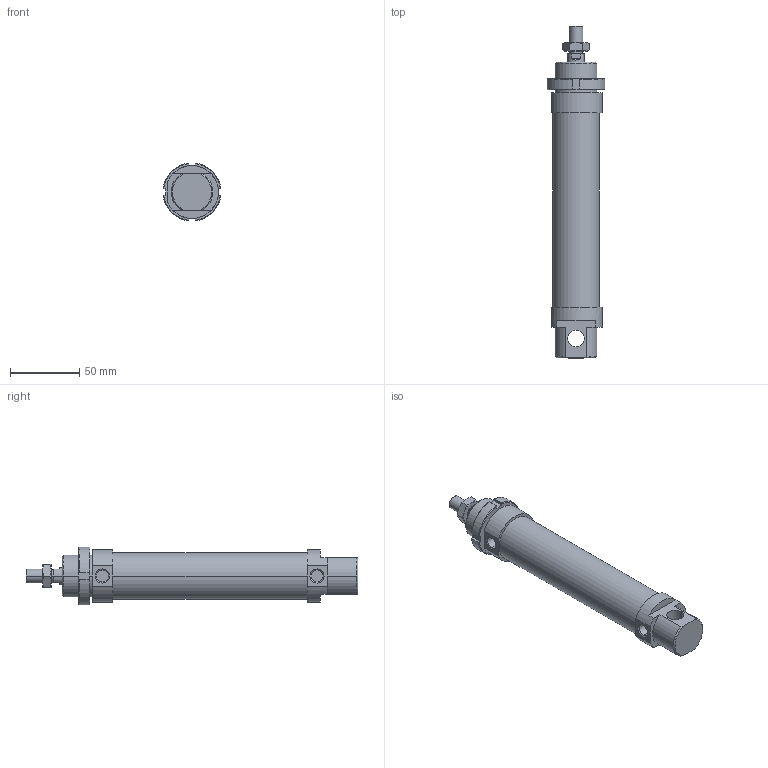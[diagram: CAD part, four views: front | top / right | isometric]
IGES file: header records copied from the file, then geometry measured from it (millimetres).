
Global section: file name: No Iges File Name specified; native system: AutoDesk Inventor R6.0; preprocessor: AutoDesk Inventor Iges Exporter R6.0; author: No Author specified; organization: No Organization specified; date: 20030407.191755; units: millimetre
Bounding box: 41.7 x 239 x 41.7 mm (x, y, z)
Volume: 190361 mm3; surface area: 41592.5 mm2
Topology: 4 solids, 4 shells, 122 faces, 286 edges, 180 vertices
Faces by surface type: plane 44, cone 30, cylinder 22, bspline 20, revolution 6
